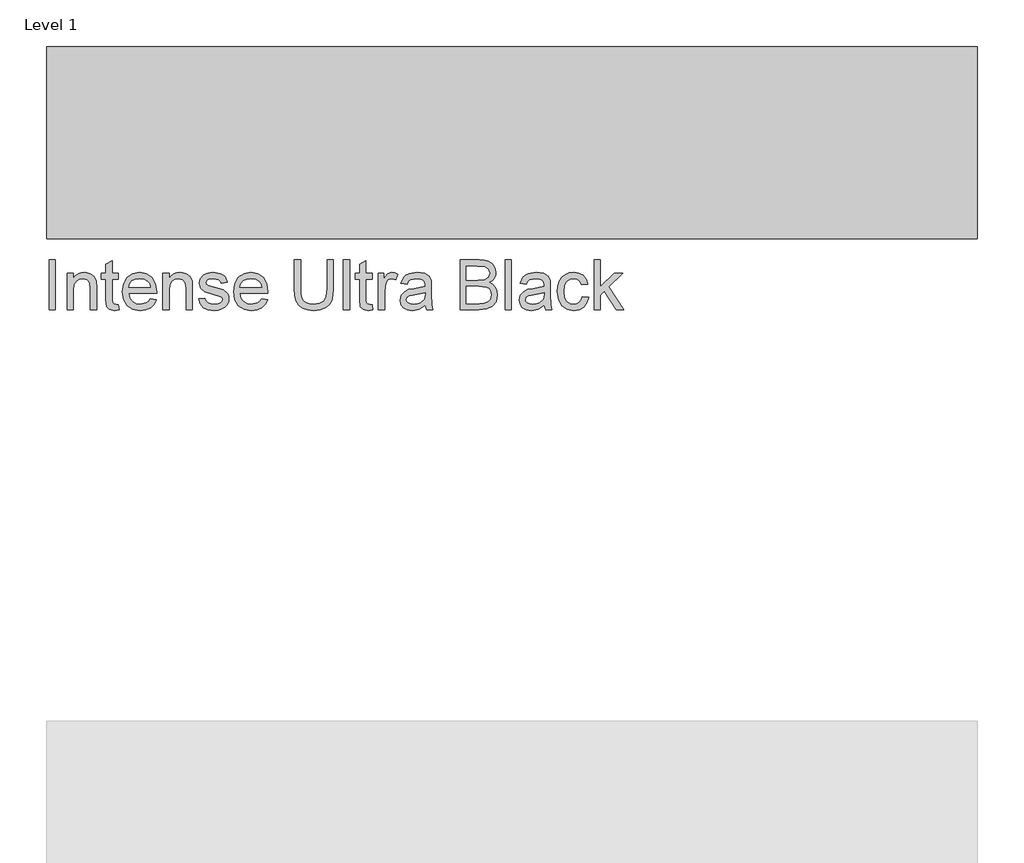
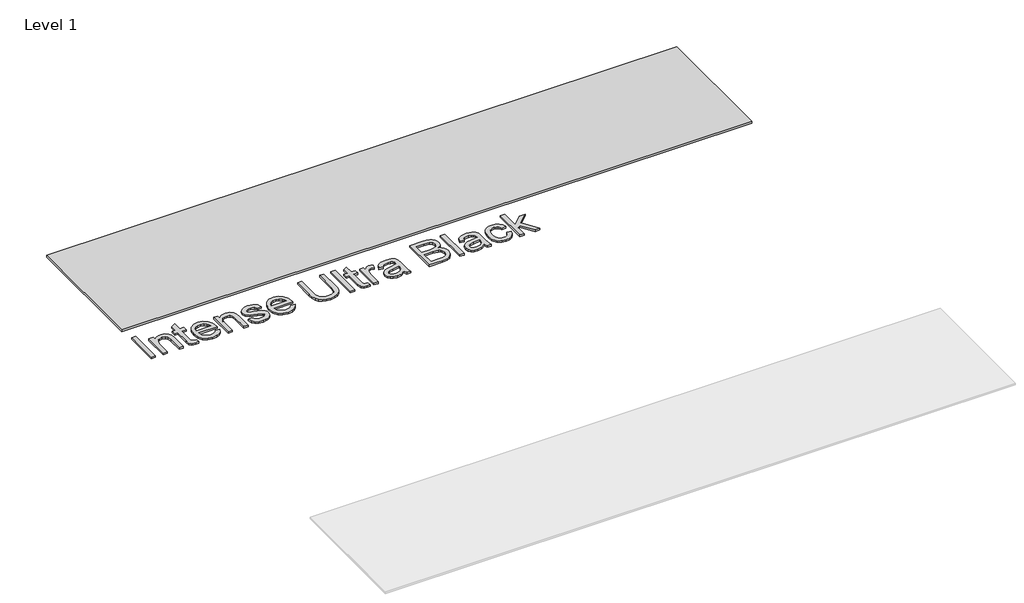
# One storey, part 2 of 2: 2 proxies.
"""IFC4 building model written with IfcOpenShell, lengths in millimetres."""

from ifc_helpers import new_model, si_unit, origin, origin_with_axes, place, context, project, spatial, polyline, outline, extrude, transform, mapped, element, save
from components import generic_models_7f56e2ab

model = new_model("IFC4")

# Units and contexts
model_context = context("Model", 3, world=origin())
ifc_project = project(units=[si_unit("LENGTHUNIT", "METRE", prefix="MILLI")], contexts=[model_context])

# Site, building, storey
site = spatial("IfcSite", under=ifc_project)
building = spatial("IfcBuilding", under=site)
storey = spatial("IfcBuildingStorey", under=building, Name="Level 1", Elevation=0.0)

# Proxies
placement = place(None, origin())
generic_models_shape = generic_models_7f56e2ab(model_context)
element("IfcBuildingElementProxy", 1, Name="Kitchen_Counter-Tops_Indoor-Material_HI-MACS_Intense-Ultra : Intense-Ultra-Black_12mm_760x3680mm", ObjectType="Kitchen_Counter-Tops_Indoor-Material_HI-MACS_Intense-Ultra : Intense-Ultra-Black_12mm_760x3680mm", at=placement, inside=storey, context=model_context, shape_type="MappedRepresentation", body=[
    mapped(generic_models_shape, transform((-20102.2995655, -143623.6737452, 0.0), x_axis=(1.0, 0.0, 0.0), y_axis=(0.0, 1.0, 0.0), z_axis=(0.0, 0.0, 1.0))),
])
element("IfcBuildingElementProxy", 2, Name="600mm Arial", ObjectType="600mm Arial", at=placement, inside=storey, context=model_context, shape_type="SweptSolid", body=[
    extrude(outline(polyline([(-21931.9733809, -144284.1107644), (-21931.9733809, -144087.1876874), (-21907.3579962, -144087.1876874), (-21907.3579962, -144284.1107644), (-21931.9733809, -144284.1107644)])), origin_with_axes(), (0.0, 0.0, 1.0), 10.0),
    extrude(outline(polyline([(-21861.2041501, -144284.1107644), (-21861.2041501, -144139.4953797), (-21836.5887655, -144139.4953797), (-21836.5887655, -144159.6876874), (-21828.0370828, -144149.507399), (-21817.7666501, -144142.2357644), (-21805.7774674, -144137.8727836), (-21792.0695347, -144136.4184567), (-21768.8243424, -144141.1059567), (-21752.9589578, -144153.413649), (-21745.5791501, -144171.5146105), (-21744.2810732, -144195.3126874), (-21744.2810732, -144284.1107644), (-21768.8964578, -144284.1107644), (-21768.8964578, -144198.6299951), (-21771.7329962, -144176.851149), (-21781.7570347, -144165.3367259), (-21798.6560732, -144161.0338413), (-21813.0731405, -144163.4497067), (-21825.3628039, -144170.6973028), (-21833.7822751, -144184.6997067), (-21836.5887655, -144207.3799951), (-21836.5887655, -144284.1107644), (-21861.2041501, -144284.1107644)])), origin_with_axes(), (0.0, 0.0, 1.0), 10.0),
    extrude(outline(polyline([(-21658.127227, -144263.5819182), (-21655.0503039, -144284.8319182), (-21673.4637655, -144287.1876874), (-21694.0887655, -144283.101149), (-21704.377227, -144272.3799951), (-21707.3579962, -144244.4473028), (-21707.3579962, -144164.1107644), (-21725.8195347, -144164.1107644), (-21725.8195347, -144139.4953797), (-21707.3579962, -144139.4953797), (-21707.3579962, -144104.351149), (-21682.7426116, -144089.8799951), (-21682.7426116, -144139.4953797), (-21658.127227, -144139.4953797), (-21658.127227, -144164.1107644), (-21682.7426116, -144164.1107644), (-21682.7426116, -144243.726149), (-21681.4445347, -144256.4184567), (-21677.2378039, -144260.913649), (-21668.8483809, -144262.5723028), (-21658.127227, -144263.5819182)])), origin_with_axes(), (0.0, 0.0, 1.0), 10.0),
    extrude(outline(polyline([(-21532.2618424, -144241.0338413), (-21508.127227, -144244.1107644), (-21516.8231405, -144262.2958605), (-21530.6993424, -144275.8896105), (-21549.4433328, -144284.3631682), (-21572.7426116, -144287.1876874), (-21601.6248232, -144282.3138894), (-21623.8483809, -144267.6924951), (-21638.0190539, -144244.273024), (-21642.7426116, -144213.0049951), (-21637.970977, -144180.6852836), (-21623.6560732, -144156.5146105), (-21601.7329962, -144141.4424951), (-21574.1368424, -144136.4184567), (-21547.4000635, -144141.4304759), (-21526.0358809, -144156.4665336), (-21512.0274674, -144180.5891297), (-21507.3579962, -144212.8607644), (-21507.502227, -144219.4953797), (-21618.127227, -144219.4953797), (-21613.8664097, -144237.9208605), (-21603.9685732, -144251.4665336), (-21589.6837174, -144259.7958605), (-21572.2618424, -144262.5723028), (-21548.127227, -144257.4280721), (-21539.1608809, -144250.757399), (-21532.2618424, -144241.0338413)]), holes=[polyline([(-21618.127227, -144194.8799951), (-21531.9733809, -144194.8799951), (-21535.3027078, -144181.8751874), (-21541.8291501, -144172.5723028), (-21556.1801116, -144163.9184567), (-21574.2329962, -144161.0338413), (-21590.8255443, -144163.335524), (-21604.5454962, -144170.2405721), (-21614.0827559, -144181.0037932), (-21618.127227, -144194.8799951)])]), origin_with_axes(), (0.0, 0.0, 1.0), 10.0),
    extrude(outline(polyline([(-21482.7426116, -144284.1107644), (-21482.7426116, -144139.4953797), (-21458.127227, -144139.4953797), (-21458.127227, -144159.6876874), (-21449.5755443, -144149.507399), (-21439.3051116, -144142.2357644), (-21427.3159289, -144137.8727836), (-21413.6079962, -144136.4184567), (-21390.3628039, -144141.1059567), (-21374.4974193, -144153.413649), (-21367.1176116, -144171.5146105), (-21365.8195347, -144195.3126874), (-21365.8195347, -144284.1107644), (-21390.4349193, -144284.1107644), (-21390.4349193, -144198.6299951), (-21393.2714578, -144176.851149), (-21403.2954962, -144165.3367259), (-21420.1945347, -144161.0338413), (-21434.611602, -144163.4497067), (-21446.9012655, -144170.6973028), (-21455.3207366, -144184.6997067), (-21458.127227, -144207.3799951), (-21458.127227, -144284.1107644), (-21482.7426116, -144284.1107644)])), origin_with_axes(), (0.0, 0.0, 1.0), 10.0),
    extrude(outline(polyline([(-21341.2041501, -144241.0338413), (-21316.5887655, -144237.9569182), (-21312.7065539, -144248.4857644), (-21305.1945347, -144256.226149), (-21294.0046309, -144260.9857644), (-21279.0887655, -144262.5723028), (-21264.3531885, -144261.1179759), (-21253.9926116, -144256.7549951), (-21247.8628039, -144250.4328797), (-21245.8195347, -144243.101149), (-21247.8748232, -144236.8271105), (-21254.0406885, -144232.0434567), (-21279.377227, -144225.0242259), (-21316.4445347, -144212.9809567), (-21332.6224193, -144198.9184567), (-21338.127227, -144179.0626874), (-21333.7041501, -144160.7213413), (-21321.6368424, -144146.7069182), (-21305.9878039, -144139.4232644), (-21284.8099193, -144136.4184567), (-21254.8579962, -144141.2501874), (-21243.6560732, -144146.9352836), (-21235.8195347, -144154.3271105), (-21227.3579962, -144176.4184567), (-21251.9733809, -144179.4953797), (-21255.080352, -144171.7489855), (-21261.2281885, -144165.913649), (-21282.8868424, -144161.0338413), (-21297.0214578, -144162.1997067), (-21306.4445347, -144165.6973028), (-21311.7450155, -144170.7453797), (-21313.5118424, -144176.5626874), (-21310.5791501, -144183.726149), (-21301.3964578, -144189.1588413), (-21280.1945347, -144194.3992259), (-21244.064727, -144205.9857644), (-21227.2858809, -144219.1107644), (-21222.7245828, -144228.7622067), (-21221.2041501, -144240.5049951), (-21222.9890059, -144252.6444182), (-21228.3435732, -144264.0626874), (-21237.0635251, -144273.8643701), (-21248.9445347, -144281.1540336), (-21263.2954962, -144285.679274), (-21279.4253039, -144287.1876874), (-21304.2450155, -144284.2790336), (-21322.3579962, -144275.5530721), (-21334.4493424, -144261.1059567), (-21341.2041501, -144241.0338413)])), origin_with_axes(), (0.0, 0.0, 1.0), 10.0),
    extrude(outline(polyline([(-21092.2618424, -144241.0338413), (-21068.127227, -144244.1107644), (-21076.8231405, -144262.2958605), (-21090.6993424, -144275.8896105), (-21109.4433328, -144284.3631682), (-21132.7426116, -144287.1876874), (-21161.6248232, -144282.3138894), (-21183.8483809, -144267.6924951), (-21198.0190539, -144244.273024), (-21202.7426116, -144213.0049951), (-21197.970977, -144180.6852836), (-21183.6560732, -144156.5146105), (-21161.7329962, -144141.4424951), (-21134.1368424, -144136.4184567), (-21107.4000635, -144141.4304759), (-21086.0358809, -144156.4665336), (-21072.0274674, -144180.5891297), (-21067.3579962, -144212.8607644), (-21067.502227, -144219.4953797), (-21178.127227, -144219.4953797), (-21173.8664097, -144237.9208605), (-21163.9685732, -144251.4665336), (-21149.6837174, -144259.7958605), (-21132.2618424, -144262.5723028), (-21108.127227, -144257.4280721), (-21099.1608809, -144250.757399), (-21092.2618424, -144241.0338413)]), holes=[polyline([(-21178.127227, -144194.8799951), (-21091.9733809, -144194.8799951), (-21095.3027078, -144181.8751874), (-21101.8291501, -144172.5723028), (-21116.1801116, -144163.9184567), (-21134.2329962, -144161.0338413), (-21150.8255443, -144163.335524), (-21164.5454962, -144170.2405721), (-21174.0827559, -144181.0037932), (-21178.127227, -144194.8799951)])]), origin_with_axes(), (0.0, 0.0, 1.0), 10.0),
    extrude(outline(polyline([(-20833.5118424, -144087.1876874), (-20808.8964578, -144087.1876874), (-20808.8964578, -144200.7934567), (-20810.5671309, -144227.398024), (-20815.5791501, -144247.8848028), (-20824.9421309, -144263.6900913), (-20839.6656885, -144276.2501874), (-20859.7858809, -144284.4533124), (-20885.3387655, -144287.1876874), (-20910.3327559, -144284.8078797), (-20930.314727, -144277.6684567), (-20945.2906885, -144266.0158124), (-20955.2666501, -144250.0963413), (-20960.8736212, -144228.7441778), (-20962.7426116, -144200.7934567), (-20962.7426116, -144087.1876874), (-20938.127227, -144087.1876874), (-20938.127227, -144199.9280721), (-20936.9132847, -144222.0494663), (-20933.2714578, -144237.4521105), (-20926.6729001, -144248.1191778), (-20916.5887655, -144256.0338413), (-20903.439727, -144260.9376874), (-20887.6464578, -144262.5723028), (-20862.6104001, -144259.3391297), (-20845.9637655, -144249.6396105), (-20836.6248232, -144230.7453797), (-20833.5118424, -144199.9280721), (-20833.5118424, -144087.1876874)])), origin_with_axes(), (0.0, 0.0, 1.0), 10.0),
    extrude(outline(polyline([(-20768.8964578, -144284.1107644), (-20768.8964578, -144087.1876874), (-20744.2810732, -144087.1876874), (-20744.2810732, -144284.1107644), (-20768.8964578, -144284.1107644)])), origin_with_axes(), (0.0, 0.0, 1.0), 10.0),
    extrude(outline(polyline([(-20655.0503039, -144263.5819182), (-20651.9733809, -144284.8319182), (-20670.3868424, -144287.1876874), (-20691.0118424, -144283.101149), (-20701.3003039, -144272.3799951), (-20704.2810732, -144244.4473028), (-20704.2810732, -144164.1107644), (-20722.7426116, -144164.1107644), (-20722.7426116, -144139.4953797), (-20704.2810732, -144139.4953797), (-20704.2810732, -144104.351149), (-20679.6656885, -144089.8799951), (-20679.6656885, -144139.4953797), (-20655.0503039, -144139.4953797), (-20655.0503039, -144164.1107644), (-20679.6656885, -144164.1107644), (-20679.6656885, -144243.726149), (-20678.3676116, -144256.4184567), (-20674.1608809, -144260.913649), (-20665.7714578, -144262.5723028), (-20655.0503039, -144263.5819182)])), origin_with_axes(), (0.0, 0.0, 1.0), 10.0),
    extrude(outline(polyline([(-20630.4349193, -144284.1107644), (-20630.4349193, -144139.4953797), (-20608.8964578, -144139.4953797), (-20608.8964578, -144160.8896105), (-20593.6079962, -144141.1780721), (-20578.2233809, -144136.4184567), (-20565.9637655, -144138.3174951), (-20553.5118424, -144144.0146105), (-20561.7329962, -144166.0819182), (-20579.0406885, -144161.0338413), (-20592.9589578, -144165.8896105), (-20601.8291501, -144179.351149), (-20605.8195347, -144208.101149), (-20605.8195347, -144284.1107644), (-20630.4349193, -144284.1107644)])), origin_with_axes(), (0.0, 0.0, 1.0), 10.0),
    extrude(outline(polyline([(-20445.8195347, -144265.6492259), (-20469.689727, -144282.3319182), (-20496.0599193, -144287.1876874), (-20516.6308328, -144284.2670144), (-20531.8051116, -144275.5049951), (-20541.1620828, -144262.1997067), (-20544.2810732, -144245.6492259), (-20539.5695347, -144226.1780721), (-20527.189727, -144212.0434567), (-20509.9541501, -144203.9665336), (-20488.6560732, -144200.2646105), (-20445.9637655, -144191.8030721), (-20445.8195347, -144186.3223028), (-20447.5142462, -144175.3367259), (-20452.5983809, -144168.1492259), (-20463.9685732, -144162.8126874), (-20479.8099193, -144161.0338413), (-20504.7137655, -144165.7694182), (-20511.6969385, -144172.3379278), (-20516.5887655, -144182.5723028), (-20541.2041501, -144179.4953797), (-20530.5551116, -144155.4569182), (-20521.4805924, -144147.3679759), (-20509.1128039, -144141.3703797), (-20476.6368424, -144136.4184567), (-20446.8051116, -144140.7934567), (-20429.9541501, -144151.7790336), (-20422.4060732, -144168.4857644), (-20421.2041501, -144190.0242259), (-20421.2041501, -144220.6492259), (-20419.9541501, -144263.413649), (-20415.0503039, -144284.1107644), (-20439.6656885, -144284.1107644), (-20445.8195347, -144265.6492259)]), holes=[polyline([(-20445.8195347, -144216.4184567), (-20485.5310732, -144223.9665336), (-20506.7089578, -144227.9569182), (-20516.3003039, -144234.4473028), (-20519.6656885, -144243.9184567), (-20517.8327559, -144251.2381682), (-20512.3339578, -144257.2357644), (-20503.2894866, -144261.2381682), (-20490.8195347, -144262.5723028), (-20477.5983809, -144261.0999471), (-20465.9156885, -144256.6828797), (-20449.8579962, -144242.4280721), (-20445.9637655, -144223.3896105), (-20445.8195347, -144216.4184567)])]), origin_with_axes(), (0.0, 0.0, 1.0), 10.0),
    extrude(outline(polyline([(-20307.3579962, -144284.1107644), (-20307.3579962, -144087.1876874), (-20232.2137655, -144087.1876874), (-20211.5466982, -144088.6360047), (-20195.4108809, -144092.9809567), (-20183.0430924, -144100.3307163), (-20173.6801116, -144110.7934567), (-20167.7846789, -144123.101149), (-20165.8195347, -144135.9857644), (-20167.4721789, -144147.8427355), (-20172.4301116, -144158.9905721), (-20180.7293905, -144168.7441778), (-20192.4060732, -144176.4184567), (-20178.4577559, -144183.7021105), (-20168.1512655, -144194.7838413), (-20161.7870828, -144208.9304759), (-20159.6656885, -144225.4088413), (-20165.4589578, -144251.8751874), (-20179.8099193, -144270.7213413), (-20201.2281885, -144280.7213413), (-20232.7906885, -144284.1107644), (-20307.3579962, -144284.1107644)]), holes=[polyline([(-20282.7426116, -144167.1876874), (-20237.7906885, -144167.1876874), (-20211.5406885, -144165.0723028), (-20195.7474193, -144155.9617259), (-20190.4349193, -144139.9280721), (-20195.3868424, -144123.8703797), (-20209.5695347, -144114.3751874), (-20241.2041501, -144111.8030721), (-20282.7426116, -144111.8030721), (-20282.7426116, -144167.1876874)]), polyline([(-20282.7426116, -144259.4953797), (-20232.2618424, -144259.4953797), (-20213.9926116, -144258.5338413), (-20198.5358809, -144253.1732644), (-20188.2954962, -144242.2357644), (-20184.2810732, -144225.6492259), (-20188.9926116, -144206.5146105), (-20195.1644866, -144199.5975432), (-20204.2570347, -144195.0963413), (-20234.6656885, -144191.8030721), (-20282.7426116, -144191.8030721), (-20282.7426116, -144259.4953797)])]), origin_with_axes(), (0.0, 0.0, 1.0), 10.0),
    extrude(outline(polyline([(-20128.8964578, -144284.1107644), (-20128.8964578, -144087.1876874), (-20104.2810732, -144087.1876874), (-20104.2810732, -144284.1107644), (-20128.8964578, -144284.1107644)])), origin_with_axes(), (0.0, 0.0, 1.0), 10.0),
    extrude(outline(polyline([(-19975.0503039, -144265.6492259), (-19998.9204962, -144282.3319182), (-20025.2906885, -144287.1876874), (-20045.861602, -144284.2670144), (-20061.0358809, -144275.5049951), (-20070.392852, -144262.1997067), (-20073.5118424, -144245.6492259), (-20068.8003039, -144226.1780721), (-20056.4204962, -144212.0434567), (-20039.1849193, -144203.9665336), (-20017.8868424, -144200.2646105), (-19975.1945347, -144191.8030721), (-19975.0503039, -144186.3223028), (-19976.7450155, -144175.3367259), (-19981.8291501, -144168.1492259), (-19993.1993424, -144162.8126874), (-20009.0406885, -144161.0338413), (-20033.9445347, -144165.7694182), (-20040.9277078, -144172.3379278), (-20045.8195347, -144182.5723028), (-20070.4349193, -144179.4953797), (-20059.7858809, -144155.4569182), (-20050.7113616, -144147.3679759), (-20038.3435732, -144141.3703797), (-20005.8676116, -144136.4184567), (-19976.0358809, -144140.7934567), (-19959.1849193, -144151.7790336), (-19951.6368424, -144168.4857644), (-19950.4349193, -144190.0242259), (-19950.4349193, -144220.6492259), (-19949.1849193, -144263.413649), (-19944.2810732, -144284.1107644), (-19968.8964578, -144284.1107644), (-19975.0503039, -144265.6492259)]), holes=[polyline([(-19975.0503039, -144216.4184567), (-20014.7618424, -144223.9665336), (-20035.939727, -144227.9569182), (-20045.5310732, -144234.4473028), (-20048.8964578, -144243.9184567), (-20047.0635251, -144251.2381682), (-20041.564727, -144257.2357644), (-20032.5202559, -144261.2381682), (-20020.0503039, -144262.5723028), (-20006.8291501, -144261.0999471), (-19995.1464578, -144256.6828797), (-19979.0887655, -144242.4280721), (-19975.1945347, -144223.3896105), (-19975.0503039, -144216.4184567)])]), origin_with_axes(), (0.0, 0.0, 1.0), 10.0),
    extrude(outline(polyline([(-19824.2810732, -144231.8030721), (-19799.6656885, -144234.8799951), (-19806.5286693, -144256.773024), (-19819.4253039, -144273.3174951), (-19837.1416501, -144283.7201394), (-19858.4637655, -144287.1876874), (-19884.6476597, -144282.3499471), (-19905.1224193, -144267.8367259), (-19918.3375635, -144244.2850432), (-19922.7426116, -144212.3319182), (-19920.861602, -144190.4268701), (-19915.2185732, -144171.4424951), (-19905.7233809, -144156.1119663), (-19892.2858809, -144145.1684567), (-19876.2101597, -144138.6059567), (-19858.8003039, -144136.4184567), (-19838.0010251, -144139.4232644), (-19821.3724193, -144148.4376874), (-19809.4433328, -144162.9809567), (-19802.7426116, -144182.5723028), (-19827.3579962, -144185.6492259), (-19831.8231405, -144174.9100432), (-19838.7762655, -144167.2117259), (-19847.8327559, -144162.5783124), (-19858.6079962, -144161.0338413), (-19874.5154482, -144164.0747067), (-19887.1416501, -144173.1973028), (-19895.3808328, -144188.8944182), (-19898.127227, -144211.6588413), (-19895.4409289, -144234.7297547), (-19887.3820347, -144250.4809567), (-19874.9841982, -144259.5494663), (-19859.2810732, -144262.5723028), (-19846.5346789, -144260.6852836), (-19836.0839578, -144255.0242259), (-19828.4817943, -144245.444899), (-19824.2810732, -144231.8030721)])), origin_with_axes(), (0.0, 0.0, 1.0), 10.0),
    extrude(outline(polyline([(-19778.127227, -144284.1107644), (-19778.127227, -144087.1876874), (-19753.5118424, -144087.1876874), (-19753.5118424, -144193.0049951), (-19698.3195347, -144139.4953797), (-19664.2810732, -144139.4953797), (-19720.1464578, -144193.6780721), (-19661.2041501, -144284.1107644), (-19689.9541501, -144284.1107644), (-19737.7906885, -144210.7934567), (-19753.5118424, -144226.0338413), (-19753.5118424, -144284.1107644), (-19778.127227, -144284.1107644)])), origin_with_axes(), (0.0, 0.0, 1.0), 10.0),
])

save(model, "model.ifc")
